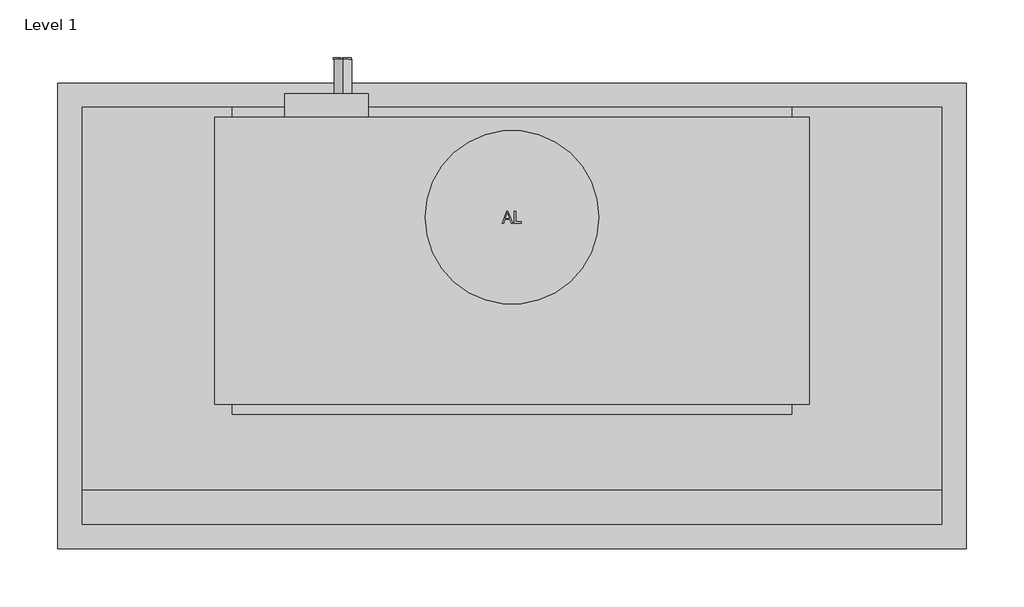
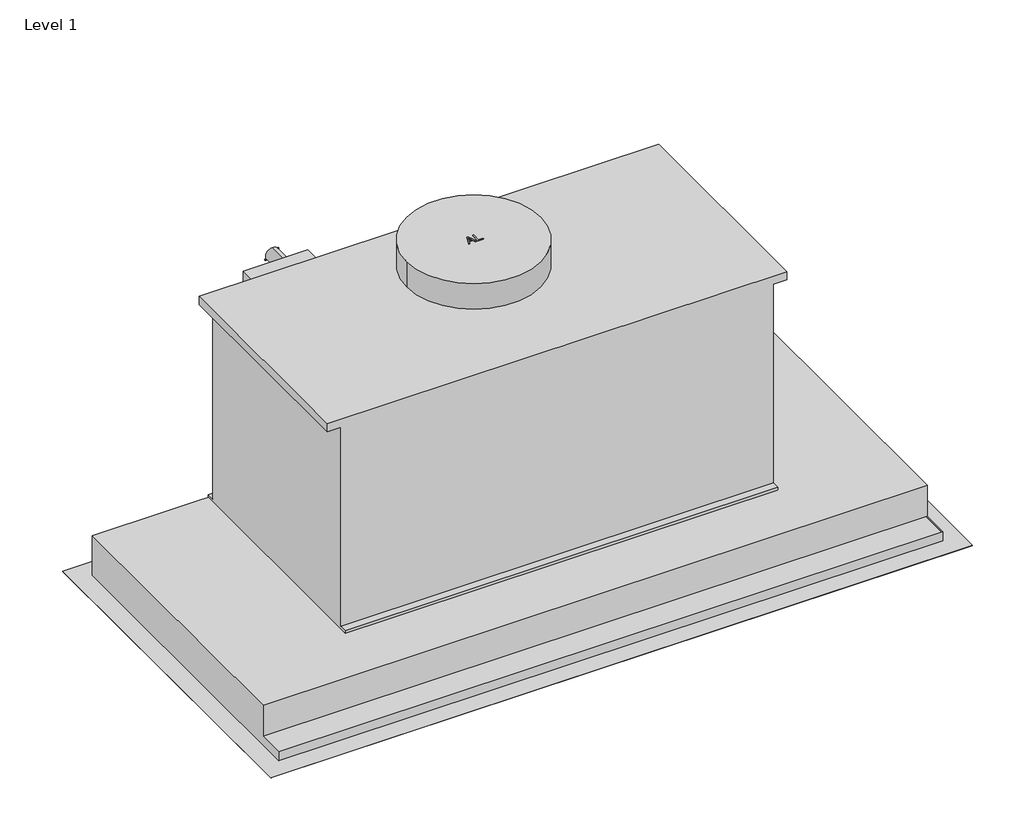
# One storey: 1 proxy.
"""IFC4 building model written with IfcOpenShell, lengths in millimetres."""

from ifc_helpers import new_model, si_unit, origin, place, context, project, spatial, transform, mapped, element, save
from components import specialty_equipment_f81bbe7e

model = new_model("IFC4")

# Units and contexts
model_context = context("Model", 3, world=origin())
ifc_project = project(units=[si_unit("LENGTHUNIT", "METRE", prefix="MILLI")], contexts=[model_context])

# Site, building, storey
site = spatial("IfcSite", under=ifc_project)
building = spatial("IfcBuilding", under=site)
storey = spatial("IfcBuildingStorey", under=building, Name="Level 1", Elevation=0.0)

# Proxy
placement = place(None, origin())
specialty_equipment_shape = specialty_equipment_f81bbe7e(model_context)
element("IfcBuildingElementProxy", 1, Name="10876770_USA_DA2588_EDST : 28258855_USA_10876770_DA2588_EDST", ObjectType="10876770_USA_DA2588_EDST : 28258855_USA_10876770_DA2588_EDST", at=placement, inside=storey, context=model_context, shape_type="MappedRepresentation", body=[
    mapped(specialty_equipment_shape, transform((0.0, 0.0, 0.0), x_axis=(1.0, 0.0, 0.0), y_axis=(0.0, 1.0, 0.0), z_axis=(0.0, 0.0, 1.0))),
])

save(model, "model.ifc")
